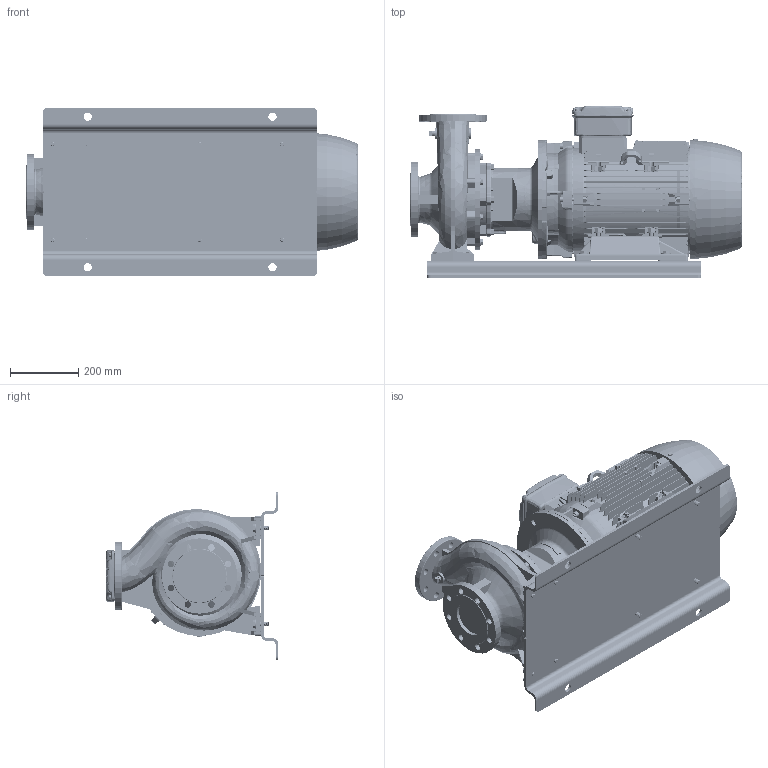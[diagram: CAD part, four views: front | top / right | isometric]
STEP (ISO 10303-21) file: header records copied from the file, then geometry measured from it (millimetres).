
FILE_DESCRIPTION (( 'STEP AP214' ), '1' );
FILE_NAME ('GSD2 80-200_22.0_(180ML)_W21_BP.STEP', '2024-08-02T02:46:47', ( '' ), ( '' ), 'SwSTEP 2.0', 'SolidWorks 2019', '' );
FILE_SCHEMA (( 'AUTOMOTIVE_DESIGN' ));
Length unit declared in the file: millimetre
Products named in the file (15): Parametric bolt_SFT-A299B; Parametric bolt_SFT-A305B; Parametric bolt and washer_SFT-A299B; GSD2  80-200_22.0_(180ML)_W21_BP; Parametric bolt and washer_SFT-A305B; Parametric Flat Washer_M12; 180M_L ALIE3_W21T_B35; N5S3 GSDA-539 F1-1832930-00; 80-200-180M_L_______
Assembly tree (27 placements, depth 3):
  GSD2  80-200_22.0_(180ML)_W21_BP
    80-200-180M_L_______
    N5S3 GSDA-539 F1-1832930-00
    Parametric bolt and washer_SFT-A299B
      Parametric bolt_SFT-A299B
      Parametric Flat Washer_M12
    Parametric bolt and washer_SFT-A299B
      Parametric bolt_SFT-A299B
      Parametric Flat Washer_M12
    Parametric bolt and washer_SFT-A299B
      Parametric bolt_SFT-A299B
      Parametric Flat Washer_M12
    Parametric bolt and washer_SFT-A299B
      Parametric bolt_SFT-A299B
      Parametric Flat Washer_M12
    180M_L ALIE3_W21T_B35
    Parametric bolt and washer_SFT-A305B
      Parametric bolt_SFT-A305B
      Parametric Flat Washer_M12
    Parametric bolt and washer_SFT-A305B
      Parametric bolt_SFT-A305B
      Parametric Flat Washer_M12
    Parametric bolt and washer_SFT-A305B
      Parametric bolt_SFT-A305B
      Parametric Flat Washer_M12
    Parametric bolt and washer_SFT-A305B
      Parametric bolt_SFT-A305B
      Parametric Flat Washer_M12
Bounding box: 969.8 x 504.53 x 490 mm (x, y, z)
Volume: 67056933.4 mm3; surface area: 4256888.3 mm2
Topology: 43 solids, 43 shells, 6334 faces, 16420 edges, 10623 vertices
Faces by surface type: plane 3817, cylinder 1154, cone 631, bspline 433, torus 283, sphere 16
Entity records: 221052 total; most frequent: CARTESIAN_POINT 80297, ORIENTED_EDGE 30948, DIRECTION 26193, EDGE_CURVE 15474, VERTEX_POINT 10020, VECTOR 9693, LINE 9693, AXIS2_PLACEMENT_3D 8250
